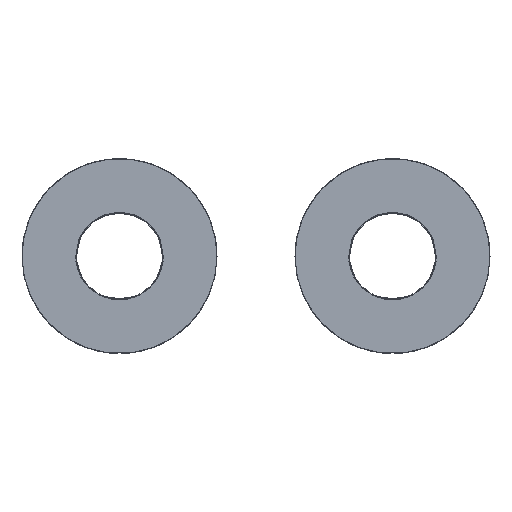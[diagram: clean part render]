
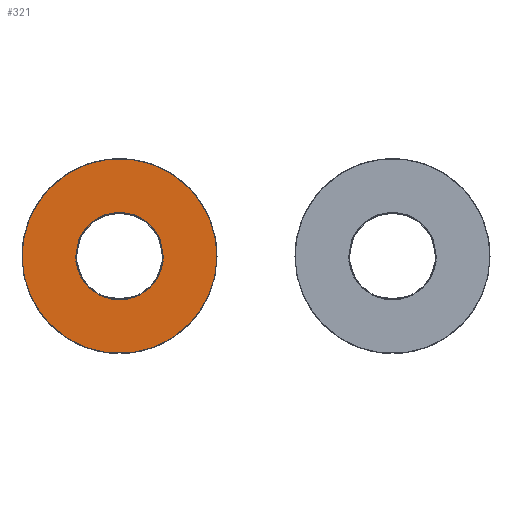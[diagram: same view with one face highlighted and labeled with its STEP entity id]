
A CAD part, left-side view. The second image highlights one B-rep face of the part: STEP entity #321.
In plain terms, the highlighted planar face has unit normal (1, 0, 0).
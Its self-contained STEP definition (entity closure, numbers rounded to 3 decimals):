
#321=ADVANCED_FACE('',(#345,#330),#786,.T.);
#330=FACE_BOUND('',#369,.T.);
#345=FACE_OUTER_BOUND('',#368,.T.);
#368=EDGE_LOOP('',(#419));
#369=EDGE_LOOP('',(#420));
#419=ORIENTED_EDGE('',*,*,#659,.T.);
#420=ORIENTED_EDGE('',*,*,#660,.T.);
#479=PCURVE('',#786,#539);
#480=PCURVE('',#786,#540);
#539=DEFINITIONAL_REPRESENTATION('',(#712),#1621);
#540=DEFINITIONAL_REPRESENTATION('',(#714),#1621);
#599=SURFACE_CURVE('',#711,(#479),.PCURVE_S1.);
#600=SURFACE_CURVE('',#713,(#480),.PCURVE_S1.);
#659=EDGE_CURVE('',#767,#767,#599,.T.);
#660=EDGE_CURVE('',#768,#768,#600,.T.);
#711=(
BOUNDED_CURVE()
B_SPLINE_CURVE(2,(#1453,#1454,#1455,#1456,#1457,#1458,#1459,#1460,#1461),
 .UNSPECIFIED.,.T.,.F.)
B_SPLINE_CURVE_WITH_KNOTS((3,2,2,2,3),(3.142,4.712,
6.283,7.854,9.425),.UNSPECIFIED.)
CURVE()
GEOMETRIC_REPRESENTATION_ITEM()
RATIONAL_B_SPLINE_CURVE((1.,0.707,1.,0.707,1.,0.707,
1.,0.707,1.))
REPRESENTATION_ITEM('')
);
#712=(
BOUNDED_CURVE()
B_SPLINE_CURVE(2,(#1462,#1463,#1464,#1465,#1466,#1467,#1468,#1469,#1470),
 .UNSPECIFIED.,.T.,.F.)
B_SPLINE_CURVE_WITH_KNOTS((3,2,2,2,3),(3.142,4.712,
6.283,7.854,9.425),.UNSPECIFIED.)
CURVE()
GEOMETRIC_REPRESENTATION_ITEM()
RATIONAL_B_SPLINE_CURVE((1.,0.707,1.,0.707,1.,0.707,
1.,0.707,1.))
REPRESENTATION_ITEM('')
);
#713=(
BOUNDED_CURVE()
B_SPLINE_CURVE(2,(#1471,#1472,#1473,#1474,#1475,#1476,#1477,#1478,#1479),
 .UNSPECIFIED.,.T.,.F.)
B_SPLINE_CURVE_WITH_KNOTS((3,2,2,2,3),(0.,1.571,3.142,
4.712,6.283),.UNSPECIFIED.)
CURVE()
GEOMETRIC_REPRESENTATION_ITEM()
RATIONAL_B_SPLINE_CURVE((1.,0.707,1.,0.707,1.,0.707,
1.,0.707,1.))
REPRESENTATION_ITEM('')
);
#714=(
BOUNDED_CURVE()
B_SPLINE_CURVE(2,(#1480,#1481,#1482,#1483,#1484,#1485,#1486,#1487,#1488),
 .UNSPECIFIED.,.T.,.F.)
B_SPLINE_CURVE_WITH_KNOTS((3,2,2,2,3),(0.,1.571,3.142,
4.712,6.283),.UNSPECIFIED.)
CURVE()
GEOMETRIC_REPRESENTATION_ITEM()
RATIONAL_B_SPLINE_CURVE((1.,0.707,1.,0.707,1.,0.707,
1.,0.707,1.))
REPRESENTATION_ITEM('')
);
#767=VERTEX_POINT('',#1451);
#768=VERTEX_POINT('',#1452);
#786=PLANE('',#837);
#837=AXIS2_PLACEMENT_3D('',#1450,#853,$);
#853=DIRECTION('',(1.,0.,0.));
#1450=CARTESIAN_POINT('',(-783.5,-523.017,145.));
#1451=CARTESIAN_POINT('',(-783.5,-513.017,150.));
#1452=CARTESIAN_POINT('',(-783.5,-520.267,150.));
#1453=CARTESIAN_POINT('',(-783.5,-513.017,150.));
#1454=CARTESIAN_POINT('',(-783.5,-513.017,155.));
#1455=CARTESIAN_POINT('',(-783.5,-518.017,155.));
#1456=CARTESIAN_POINT('',(-783.5,-523.017,155.));
#1457=CARTESIAN_POINT('',(-783.5,-523.017,150.));
#1458=CARTESIAN_POINT('',(-783.5,-523.017,145.));
#1459=CARTESIAN_POINT('',(-783.5,-518.017,145.));
#1460=CARTESIAN_POINT('',(-783.5,-513.017,145.));
#1461=CARTESIAN_POINT('',(-783.5,-513.017,150.));
#1462=CARTESIAN_POINT('',(1.,0.5));
#1463=CARTESIAN_POINT('',(1.,1.));
#1464=CARTESIAN_POINT('',(0.5,1.));
#1465=CARTESIAN_POINT('',(0.,1.));
#1466=CARTESIAN_POINT('',(0.,0.5));
#1467=CARTESIAN_POINT('',(0.,0.));
#1468=CARTESIAN_POINT('',(0.5,0.));
#1469=CARTESIAN_POINT('',(1.,0.));
#1470=CARTESIAN_POINT('',(1.,0.5));
#1471=CARTESIAN_POINT('',(-783.5,-520.267,150.));
#1472=CARTESIAN_POINT('',(-783.5,-520.267,152.25));
#1473=CARTESIAN_POINT('',(-783.5,-518.017,152.25));
#1474=CARTESIAN_POINT('',(-783.5,-515.767,152.25));
#1475=CARTESIAN_POINT('',(-783.5,-515.767,150.));
#1476=CARTESIAN_POINT('',(-783.5,-515.767,147.75));
#1477=CARTESIAN_POINT('',(-783.5,-518.017,147.75));
#1478=CARTESIAN_POINT('',(-783.5,-520.267,147.75));
#1479=CARTESIAN_POINT('',(-783.5,-520.267,150.));
#1480=CARTESIAN_POINT('',(0.275,0.5));
#1481=CARTESIAN_POINT('',(0.275,0.725));
#1482=CARTESIAN_POINT('',(0.5,0.725));
#1483=CARTESIAN_POINT('',(0.725,0.725));
#1484=CARTESIAN_POINT('',(0.725,0.5));
#1485=CARTESIAN_POINT('',(0.725,0.275));
#1486=CARTESIAN_POINT('',(0.5,0.275));
#1487=CARTESIAN_POINT('',(0.275,0.275));
#1488=CARTESIAN_POINT('',(0.275,0.5));
#1621=(
GEOMETRIC_REPRESENTATION_CONTEXT(2)
PARAMETRIC_REPRESENTATION_CONTEXT()
REPRESENTATION_CONTEXT('pspace','')
);
